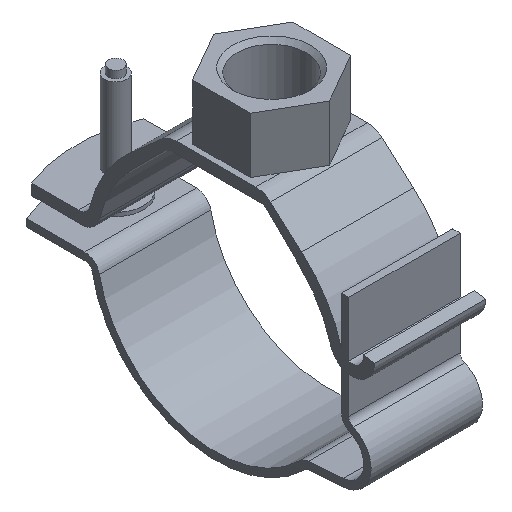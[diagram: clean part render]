
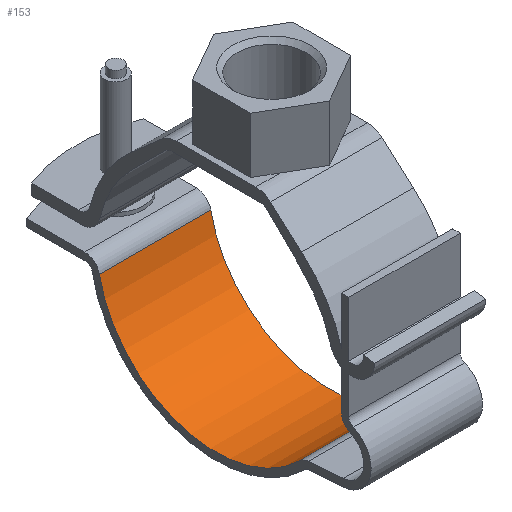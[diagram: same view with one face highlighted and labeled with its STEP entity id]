
A CAD part, isometric view. The second image highlights one B-rep face of the part: STEP entity #153.
In plain terms, the highlighted cylindrical face has radius 32 mm (diameter 64 mm), a partial arc.
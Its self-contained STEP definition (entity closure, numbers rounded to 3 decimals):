
#153 = ADVANCED_FACE( '', ( #354 ), #355, .F. );
#354 = FACE_OUTER_BOUND( '', #601, .T. );
#355 = CYLINDRICAL_SURFACE( '', #602, 32. );
#601 = EDGE_LOOP( '', ( #969, #970, #971, #972 ) );
#602 = AXIS2_PLACEMENT_3D( '', #973, #974, #975 );
#969 = ORIENTED_EDGE( '', *, *, #1554, .F. );
#970 = ORIENTED_EDGE( '', *, *, #1555, .F. );
#971 = ORIENTED_EDGE( '', *, *, #1556, .T. );
#972 = ORIENTED_EDGE( '', *, *, #1557, .T. );
#973 = CARTESIAN_POINT( '', ( 15., 0., 0. ) );
#974 = DIRECTION( '', ( 1., 0., 0. ) );
#975 = DIRECTION( '', ( 0., 0., 1. ) );
#1554 = EDGE_CURVE( '', #1902, #1903, #1904, .T. );
#1555 = EDGE_CURVE( '', #1905, #1902, #1906, .T. );
#1556 = EDGE_CURVE( '', #1905, #1907, #1908, .T. );
#1557 = EDGE_CURVE( '', #1907, #1903, #1909, .T. );
#1902 = VERTEX_POINT( '', #2358 );
#1903 = VERTEX_POINT( '', #2359 );
#1904 = CIRCLE( '', #2360, 32. );
#1905 = VERTEX_POINT( '', #2361 );
#1906 = LINE( '', #2362, #2363 );
#1907 = VERTEX_POINT( '', #2364 );
#1908 = CIRCLE( '', #2365, 32. );
#1909 = LINE( '', #2366, #2367 );
#2358 = CARTESIAN_POINT( '', ( -15., -22.459, -22.795 ) );
#2359 = CARTESIAN_POINT( '', ( -15., 31.389, -6.222 ) );
#2360 = AXIS2_PLACEMENT_3D( '', #2764, #2765, #2766 );
#2361 = CARTESIAN_POINT( '', ( 15., -22.459, -22.795 ) );
#2362 = CARTESIAN_POINT( '', ( 15., -22.459, -22.795 ) );
#2363 = VECTOR( '', #2767, 1000. );
#2364 = CARTESIAN_POINT( '', ( 15., 31.389, -6.222 ) );
#2365 = AXIS2_PLACEMENT_3D( '', #2768, #2769, #2770 );
#2366 = CARTESIAN_POINT( '', ( 15., 31.389, -6.222 ) );
#2367 = VECTOR( '', #2771, 1000. );
#2764 = CARTESIAN_POINT( '', ( -15., 0., 0. ) );
#2765 = DIRECTION( '', ( 1., 0., 0. ) );
#2766 = DIRECTION( '', ( 0., 0., -1. ) );
#2767 = DIRECTION( '', ( -1., 0., 0. ) );
#2768 = CARTESIAN_POINT( '', ( 15., 0., 0. ) );
#2769 = DIRECTION( '', ( 1., 0., 0. ) );
#2770 = DIRECTION( '', ( 0., 0., -1. ) );
#2771 = DIRECTION( '', ( -1., 0., 0. ) );
